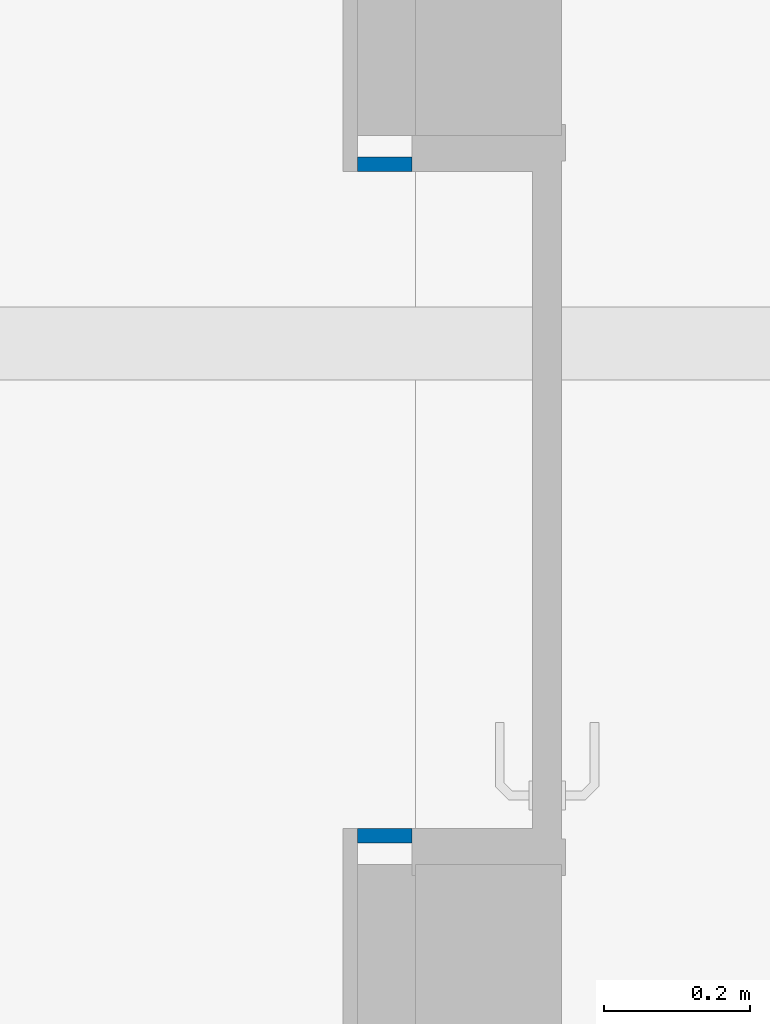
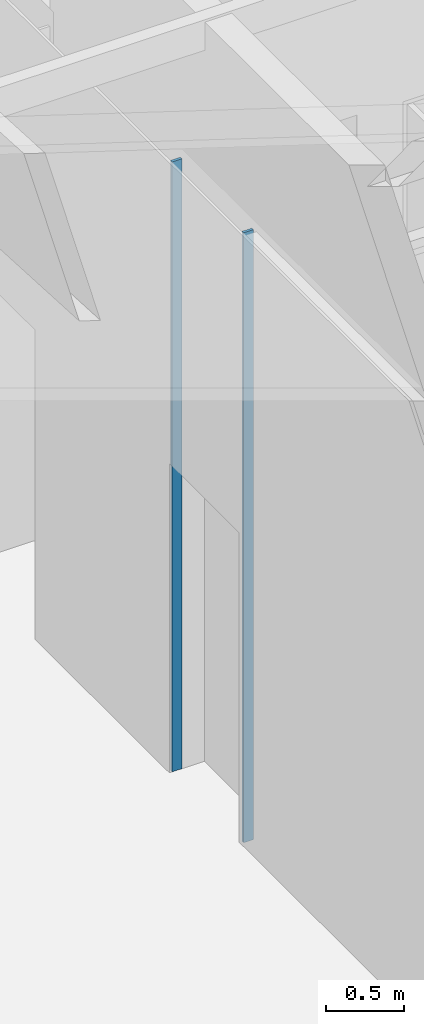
# One storey, part 81 of 240: 2 walls.
"""IFC2X3 building model written with IfcOpenShell, lengths in centimetres."""

from ifc_helpers import new_model, entity, si_unit, converted_unit, derived_unit, direction, frame, frame_2d, origin, place, context, subcontext, project, spatial, rectangle, extrude, material, layer, layer_set, layer_usage, type_object, element, save


model = new_model("IFC2X3")

# Units and contexts
model_context = context("Model", 3, precision=0.001, world=origin(), true_north=direction((6.12303176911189e-17, 1.0)))
body_context = subcontext(model_context, "Body", "Model", "MODEL_VIEW")
ifc_project = project(units=[si_unit("LENGTHUNIT", "METRE", prefix="CENTI"), si_unit("AREAUNIT", "SQUARE_METRE"), si_unit("VOLUMEUNIT", "CUBIC_METRE"), converted_unit("PLANEANGLEUNIT", "DEGREE", entity("IfcRatioMeasure", 0.0174532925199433), si_unit("PLANEANGLEUNIT", "RADIAN"), dimensions=[0, 0, 0, 0, 0, 0, 0]), si_unit("MASSUNIT", "GRAM", prefix="KILO"), derived_unit("MASSDENSITYUNIT", [(si_unit("MASSUNIT", "GRAM", prefix="KILO"), 1), (si_unit("LENGTHUNIT", "METRE"), -3)]), si_unit("TIMEUNIT", "SECOND"), si_unit("FREQUENCYUNIT", "HERTZ"), si_unit("THERMODYNAMICTEMPERATUREUNIT", "DEGREE_CELSIUS"), derived_unit("THERMALTRANSMITTANCEUNIT", [(si_unit("MASSUNIT", "GRAM", prefix="KILO"), 1), (si_unit("THERMODYNAMICTEMPERATUREUNIT", "KELVIN"), -1), (si_unit("TIMEUNIT", "SECOND"), -3)]), derived_unit("VOLUMETRICFLOWRATEUNIT", [(si_unit("LENGTHUNIT", "METRE"), 3), (si_unit("TIMEUNIT", "SECOND"), -1)]), si_unit("ELECTRICCURRENTUNIT", "AMPERE"), si_unit("ELECTRICVOLTAGEUNIT", "VOLT"), si_unit("POWERUNIT", "WATT"), si_unit("FORCEUNIT", "NEWTON", prefix="KILO"), si_unit("ILLUMINANCEUNIT", "LUX"), si_unit("LUMINOUSFLUXUNIT", "LUMEN"), si_unit("LUMINOUSINTENSITYUNIT", "CANDELA"), derived_unit("USERDEFINED", [(si_unit("MASSUNIT", "GRAM", prefix="KILO"), -1), (si_unit("LENGTHUNIT", "METRE"), -2), (si_unit("TIMEUNIT", "SECOND"), 3), (si_unit("LUMINOUSFLUXUNIT", "LUMEN"), 1)]), derived_unit("LINEARVELOCITYUNIT", [(si_unit("LENGTHUNIT", "METRE"), 1), (si_unit("TIMEUNIT", "SECOND"), -1)]), si_unit("PRESSUREUNIT", "PASCAL"), derived_unit("USERDEFINED", [(si_unit("LENGTHUNIT", "METRE"), -2), (si_unit("MASSUNIT", "GRAM", prefix="KILO"), 1), (si_unit("TIMEUNIT", "SECOND"), -2)])], contexts=[model_context])

# Site, building, storey
site_placement = place(None, frame((-2781.94577612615, 7442.24238424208, 0.0)))
site = spatial("IfcSite", under=ifc_project, at=site_placement, Name="Default", CompositionType="ELEMENT")
building_placement = place(site_placement, origin())
building = spatial("IfcBuilding", under=site, at=building_placement, CompositionType="ELEMENT")
storey_placement = place(building_placement, origin())
storey = spatial("IfcBuildingStorey", under=building, at=storey_placement, Name="N00 - COO", CompositionType="ELEMENT", Elevation=0.0)

# Walls
ifc_material = material(Name="CP bouleau perforé")
ifc_layer = layer(ifc_material, 2.0)
ifc_layer_set = layer_set([ifc_layer], Name="Mur de base:06 - habillage bois collée 2cm perforé")
ifc_layer_usage_1 = layer_usage(ifc_layer_set, "AXIS2", "NEGATIVE", 1.0)
wall_type = type_object("IfcWallType", Name="Mur de base:06 - habillage bois collée 2cm perforé", PredefinedType="STANDARD", material=ifc_layer_set)
wall_1_placement = place(building_placement, frame((-9625.48738089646, -4688.96250688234, 0.0), z_axis=(0.0, 0.0, 1.0), x_axis=(-1.0, 0.0, 0.0)))
element("IfcWallStandardCase", 1, at=wall_1_placement, inside=storey, type_object=wall_type, material=ifc_layer_usage_1, Name="Mur de base:06 - habillage bois collée 2cm perforé", ObjectType="Mur de base:06 - habillage bois collée 2cm perforé", context=body_context, shape_type="SweptSolid", body=[
    extrude(rectangle(XDim=7.499999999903, YDim=1.99999999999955, at=frame_2d((3.7499999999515, 0.0), x_axis=(-1.0, 0.0))), origin(), (0.0, 0.0, 1.0), 480.0),
])
ifc_layer_usage_2 = layer_usage(ifc_layer_set, "AXIS2", "NEGATIVE", 1.0)
wall_2_placement = place(storey_placement, frame((-9625.48738089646, -4780.96250688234, 0.0), z_axis=(0.0, 0.0, 1.0), x_axis=(-1.0, 0.0, 0.0)))
element("IfcWallStandardCase", 2, at=wall_2_placement, inside=storey, type_object=wall_type, material=ifc_layer_usage_2, Name="Mur de base:06 - habillage bois collée 2cm perforé", ObjectType="Mur de base:06 - habillage bois collée 2cm perforé", context=body_context, shape_type="SweptSolid", body=[
    extrude(rectangle(XDim=7.499999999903, YDim=1.99999999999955, at=frame_2d((3.7499999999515, 0.0), x_axis=(-1.0, 0.0))), origin(), (0.0, 0.0, 1.0), 480.0),
])

save(model, "model.ifc")
